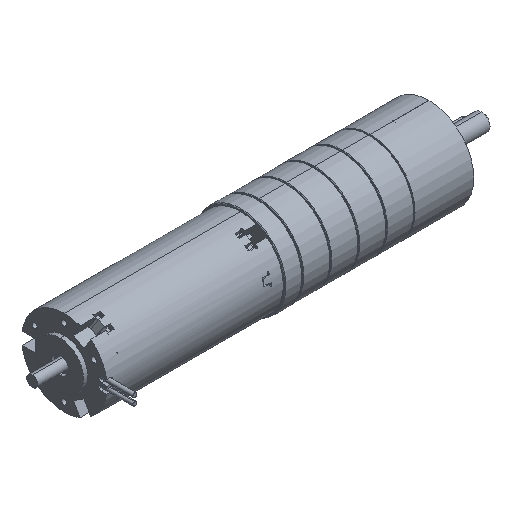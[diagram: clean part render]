
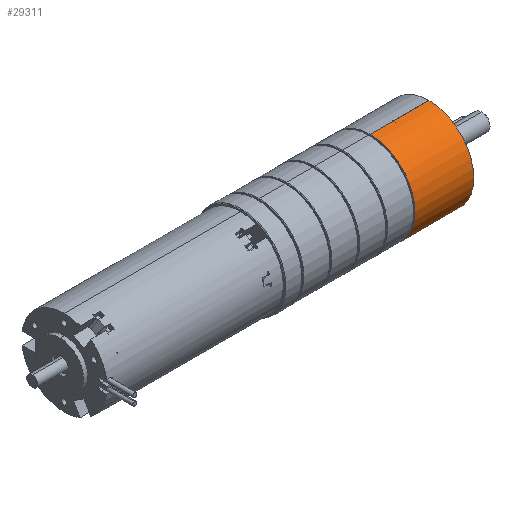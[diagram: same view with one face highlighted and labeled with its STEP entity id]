
A CAD part, isometric view. The second image highlights one B-rep face of the part: STEP entity #29311.
In plain terms, the highlighted cylindrical face has radius 21 mm (diameter 42 mm), a partial arc.
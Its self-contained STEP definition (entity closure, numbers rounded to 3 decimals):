
#2882 = EDGE_CURVE ( 'NONE', #21541, #27145, #24300, .T. ) ;
#5923 = EDGE_CURVE ( 'NONE', #10087, #21541, #8052, .T. ) ;
#6167 = CARTESIAN_POINT ( 'NONE',  ( -3.475, 0., 21. ) ) ;
#6412 = CARTESIAN_POINT ( 'NONE',  ( -2., 0., 0. ) ) ;
#7587 = AXIS2_PLACEMENT_3D ( 'NONE', #32730, #11201, #36365 ) ;
#8052 = CIRCLE ( 'NONE', #29089, 21. ) ;
#8423 = EDGE_CURVE ( 'NONE', #27145, #44653, #10514, .T. ) ;
#9986 = DIRECTION ( 'NONE',  ( 0., 0., -1. ) ) ;
#10087 = VERTEX_POINT ( 'NONE', #25814 ) ;
#10464 = EDGE_CURVE ( 'NONE', #10087, #44653, #27659, .T. ) ;
#10514 = CIRCLE ( 'NONE', #7587, 21. ) ;
#11201 = DIRECTION ( 'NONE',  ( -1., 0., 0. ) ) ;
#17132 = FACE_OUTER_BOUND ( 'NONE', #45376, .T. ) ;
#18088 = VECTOR ( 'NONE', #35064, 1000. ) ;
#18697 = DIRECTION ( 'NONE',  ( 1., 0., 0. ) ) ;
#18963 = AXIS2_PLACEMENT_3D ( 'NONE', #36064, #39704, #38635 ) ;
#19249 = ORIENTED_EDGE ( 'NONE', *, *, #2882, .T. ) ;
#21495 = ORIENTED_EDGE ( 'NONE', *, *, #5923, .T. ) ;
#21541 = VERTEX_POINT ( 'NONE', #25553 ) ;
#22168 = CARTESIAN_POINT ( 'NONE',  ( -3.475, 0., -21. ) ) ;
#23833 = CARTESIAN_POINT ( 'NONE',  ( 25.5, 0., 21. ) ) ;
#24300 = LINE ( 'NONE', #22168, #32724 ) ;
#25553 = CARTESIAN_POINT ( 'NONE',  ( -2., 0., -21. ) ) ;
#25814 = CARTESIAN_POINT ( 'NONE',  ( -2., 0., 21. ) ) ;
#26644 = ORIENTED_EDGE ( 'NONE', *, *, #8423, .T. ) ;
#27145 = VERTEX_POINT ( 'NONE', #32604 ) ;
#27659 = LINE ( 'NONE', #6167, #18088 ) ;
#29089 = AXIS2_PLACEMENT_3D ( 'NONE', #6412, #31538, #9986 ) ;
#29311 = ADVANCED_FACE ( 'NONE', ( #17132 ), #35143, .T. ) ;
#31538 = DIRECTION ( 'NONE',  ( 1., 0., 0. ) ) ;
#32604 = CARTESIAN_POINT ( 'NONE',  ( 25.5, 0., -21. ) ) ;
#32724 = VECTOR ( 'NONE', #18697, 1000. ) ;
#32730 = CARTESIAN_POINT ( 'NONE',  ( 25.5, 0., 0. ) ) ;
#35064 = DIRECTION ( 'NONE',  ( 1., 0., 0. ) ) ;
#35143 = CYLINDRICAL_SURFACE ( 'NONE', #18963, 21. ) ;
#36064 = CARTESIAN_POINT ( 'NONE',  ( -3.475, 0., 0. ) ) ;
#36365 = DIRECTION ( 'NONE',  ( 0., 0., -1. ) ) ;
#38635 = DIRECTION ( 'NONE',  ( 0., 0., -1. ) ) ;
#39704 = DIRECTION ( 'NONE',  ( 1., 0., 0. ) ) ;
#40645 = ORIENTED_EDGE ( 'NONE', *, *, #10464, .F. ) ;
#44653 = VERTEX_POINT ( 'NONE', #23833 ) ;
#45376 = EDGE_LOOP ( 'NONE', ( #40645, #21495, #19249, #26644 ) ) ;
